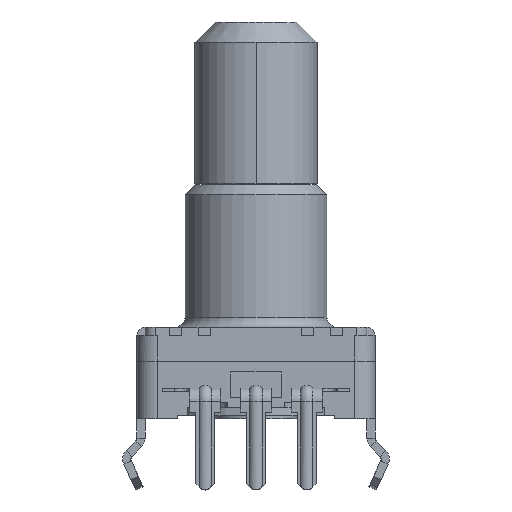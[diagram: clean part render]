
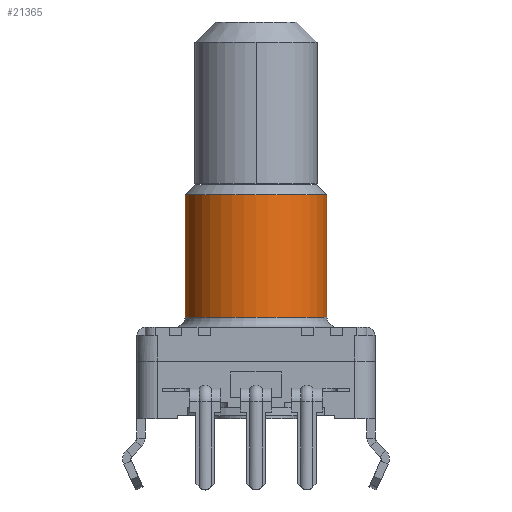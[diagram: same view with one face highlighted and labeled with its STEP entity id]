
A CAD part, front view. The second image highlights one B-rep face of the part: STEP entity #21365.
In plain terms, the highlighted cylindrical face has radius 3.487 mm (diameter 6.975 mm), a partial arc.
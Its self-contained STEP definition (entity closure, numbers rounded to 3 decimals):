
#256 = DIRECTION ( 'NONE',  ( 0., -1., 0. ) ) ;
#928 = EDGE_CURVE ( 'NONE', #10265, #15933, #10879, .T. ) ;
#1519 = AXIS2_PLACEMENT_3D ( 'NONE', #18435, #14741, #16681 ) ;
#1582 = ORIENTED_EDGE ( 'NONE', *, *, #4122, .T. ) ;
#3039 = AXIS2_PLACEMENT_3D ( 'NONE', #19401, #8428, #21236 ) ;
#4122 = EDGE_CURVE ( 'NONE', #17661, #10265, #17237, .T. ) ;
#5044 = VERTEX_POINT ( 'NONE', #6705 ) ;
#5090 = CYLINDRICAL_SURFACE ( 'NONE', #1519, 3.487 ) ;
#5564 = CARTESIAN_POINT ( 'NONE',  ( 0., -3.487, -8. ) ) ;
#5953 = EDGE_LOOP ( 'NONE', ( #15430, #13419, #1582, #17712 ) ) ;
#6252 = VECTOR ( 'NONE', #21402, 1000. ) ;
#6705 = CARTESIAN_POINT ( 'NONE',  ( 0., 3.487, -8.5 ) ) ;
#8428 = DIRECTION ( 'NONE',  ( 0., 0., -1. ) ) ;
#10265 = VERTEX_POINT ( 'NONE', #10774 ) ;
#10774 = CARTESIAN_POINT ( 'NONE',  ( 0., -3.487, -14.5 ) ) ;
#10879 = CIRCLE ( 'NONE', #15089, 3.487 ) ;
#11150 = LINE ( 'NONE', #12312, #6252 ) ;
#12283 = FACE_OUTER_BOUND ( 'NONE', #5953, .T. ) ;
#12312 = CARTESIAN_POINT ( 'NONE',  ( 0., 3.487, -8. ) ) ;
#12622 = EDGE_CURVE ( 'NONE', #5044, #15933, #11150, .T. ) ;
#13371 = DIRECTION ( 'NONE',  ( 0., 0., 1. ) ) ;
#13419 = ORIENTED_EDGE ( 'NONE', *, *, #14330, .T. ) ;
#14330 = EDGE_CURVE ( 'NONE', #5044, #17661, #19277, .T. ) ;
#14741 = DIRECTION ( 'NONE',  ( 0., 0., -1. ) ) ;
#15076 = CARTESIAN_POINT ( 'NONE',  ( 0., 3.487, -14.5 ) ) ;
#15089 = AXIS2_PLACEMENT_3D ( 'NONE', #22435, #13371, #256 ) ;
#15430 = ORIENTED_EDGE ( 'NONE', *, *, #12622, .F. ) ;
#15933 = VERTEX_POINT ( 'NONE', #15076 ) ;
#16681 = DIRECTION ( 'NONE',  ( 0., -1., 0. ) ) ;
#17237 = LINE ( 'NONE', #5564, #20901 ) ;
#17661 = VERTEX_POINT ( 'NONE', #23358 ) ;
#17712 = ORIENTED_EDGE ( 'NONE', *, *, #928, .T. ) ;
#18435 = CARTESIAN_POINT ( 'NONE',  ( 0., 0., -8. ) ) ;
#19277 = CIRCLE ( 'NONE', #3039, 3.487 ) ;
#19401 = CARTESIAN_POINT ( 'NONE',  ( 0., 0., -8.5 ) ) ;
#20199 = DIRECTION ( 'NONE',  ( 0., 0., -1. ) ) ;
#20901 = VECTOR ( 'NONE', #20199, 1000. ) ;
#21236 = DIRECTION ( 'NONE',  ( 0., -1., 0. ) ) ;
#21365 = ADVANCED_FACE ( 'NONE', ( #12283 ), #5090, .T. ) ;
#21402 = DIRECTION ( 'NONE',  ( 0., 0., -1. ) ) ;
#22435 = CARTESIAN_POINT ( 'NONE',  ( 0., 0., -14.5 ) ) ;
#23358 = CARTESIAN_POINT ( 'NONE',  ( 0., -3.487, -8.5 ) ) ;
